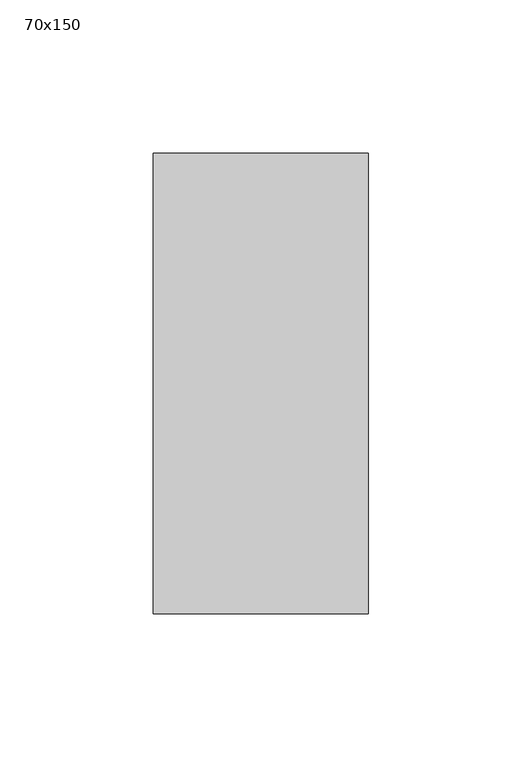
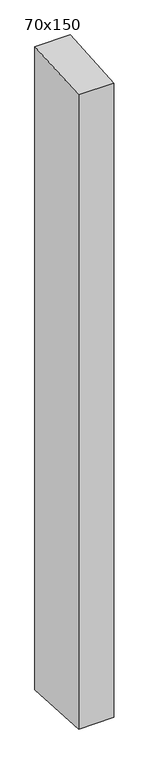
"""IFC4 building model written with IfcOpenShell, lengths in millimetres: member geometry, 長方形のマリオン : 70x150."""

from ifc_helpers import new_model, si_unit, frame, origin, place, context, project, spatial, polyline, outline, extrude, source, transform, mapped, element, save


def member_70x150_0e33257c(model_context):
    return source(origin(), model_context, "Body", "SweptSolid", [
        extrude(outline(polyline([(-75.0, -5.0270374), (75.0, 5.0270374), (75.0, -1341.2274395), (-75.0, -1332.6851589), (-75.0, -5.0270374)])), frame((-70.0, 0.0, 0.0), z_axis=(1.0, 0.0, 0.0), x_axis=(0.0, 1.0, 0.0)), (0.0, 0.0, 1.0), 70.0),
    ])


if __name__ == "__main__":
    model = new_model("IFC4")
    model_context = context("Model", 3, world=origin())
    ifc_project = project(units=[si_unit("LENGTHUNIT", "METRE", prefix="MILLI")], contexts=[model_context])
    site = spatial("IfcSite", under=ifc_project)
    building = spatial("IfcBuilding", under=site)
    placement = place(None, origin())
    member_70x150_shape = member_70x150_0e33257c(model_context)
    element("IfcMember", 1, ObjectType="長方形のマリオン : 70x150", at=placement, inside=building, context=model_context, shape_type="MappedRepresentation", body=[
        mapped(member_70x150_shape, transform((0.0, 0.0, 0.0), x_axis=(1.0, 0.0, 0.0), y_axis=(0.0, 1.0, 0.0), z_axis=(0.0, 0.0, 1.0))),
    ])
    save(model, "model.ifc")
